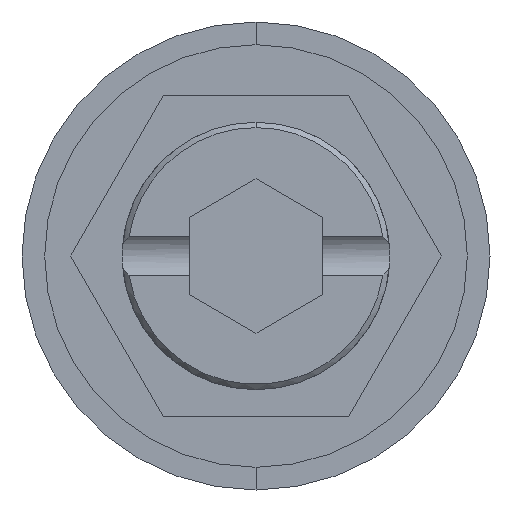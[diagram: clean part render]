
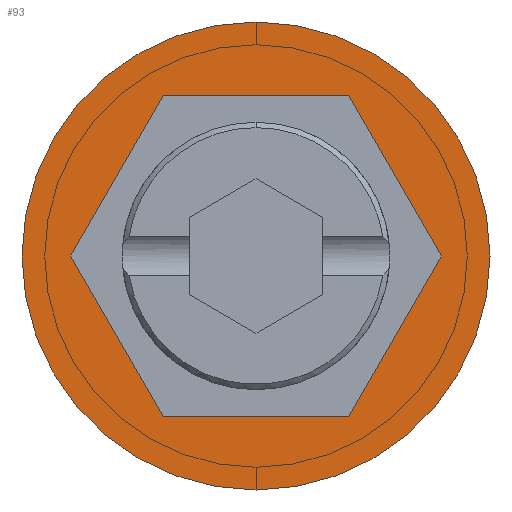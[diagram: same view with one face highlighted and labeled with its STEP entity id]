
A CAD part, front view. The second image highlights one B-rep face of the part: STEP entity #93.
In plain terms, the highlighted planar face has unit normal (0, -1, 0).
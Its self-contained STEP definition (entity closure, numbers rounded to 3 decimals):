
#19 = VECTOR ( 'NONE', #689, 1000. ) ;
#25 = VECTOR ( 'NONE', #706, 1000. ) ;
#27 = LINE ( 'NONE', #766, #25 ) ;
#41 = LINE ( 'NONE', #668, #19 ) ;
#68 = CARTESIAN_POINT ( 'NONE',  ( 6.928, 0., 0. ) ) ;
#73 = DIRECTION ( 'NONE',  ( -0.5, 0., 0.866 ) ) ;
#93 = ADVANCED_FACE ( 'NONE', ( #588, #594 ), #716, .T. ) ;
#144 = CIRCLE ( 'NONE', #1674, 8.75 ) ;
#169 = CARTESIAN_POINT ( 'NONE',  ( -6.928, 0., 0. ) ) ;
#217 = CARTESIAN_POINT ( 'NONE',  ( 6.928, 0., 0. ) ) ;
#242 = VECTOR ( 'NONE', #1532, 1000. ) ;
#257 = CIRCLE ( 'NONE', #1899, 8.75 ) ;
#260 = LINE ( 'NONE', #1529, #242 ) ;
#304 = DIRECTION ( 'NONE',  ( -1., 0., 0. ) ) ;
#306 = CARTESIAN_POINT ( 'NONE',  ( 3.464, 0., 6. ) ) ;
#465 = DIRECTION ( 'NONE',  ( -0.5, 0., -0.866 ) ) ;
#484 = AXIS2_PLACEMENT_3D ( 'NONE', #603, #734, #736 ) ;
#494 = CARTESIAN_POINT ( 'NONE',  ( -3.464, 0., 6. ) ) ;
#521 = CARTESIAN_POINT ( 'NONE',  ( -3.464, 0., 6. ) ) ;
#588 = FACE_BOUND ( 'NONE', #1856, .T. ) ;
#594 = FACE_OUTER_BOUND ( 'NONE', #613, .T. ) ;
#603 = CARTESIAN_POINT ( 'NONE',  ( 0., 0., 0. ) ) ;
#613 = EDGE_LOOP ( 'NONE', ( #1195, #1189 ) ) ;
#668 = CARTESIAN_POINT ( 'NONE',  ( -6.928, 0., 0. ) ) ;
#689 = DIRECTION ( 'NONE',  ( 0.5, 0., -0.866 ) ) ;
#706 = DIRECTION ( 'NONE',  ( 1., 0., 0. ) ) ;
#716 = PLANE ( 'NONE',  #484 ) ;
#733 = VERTEX_POINT ( 'NONE', #2245 ) ;
#734 = DIRECTION ( 'NONE',  ( 0., -1., 0. ) ) ;
#736 = DIRECTION ( 'NONE',  ( 0., 0., -1. ) ) ;
#766 = CARTESIAN_POINT ( 'NONE',  ( -3.464, 0., -6. ) ) ;
#808 = EDGE_CURVE ( 'NONE', #982, #1707, #260, .T. ) ;
#809 = VERTEX_POINT ( 'NONE', #1528 ) ;
#825 = VERTEX_POINT ( 'NONE', #1567 ) ;
#891 = EDGE_CURVE ( 'NONE', #825, #733, #257, .T. ) ;
#982 = VERTEX_POINT ( 'NONE', #1771 ) ;
#1068 = EDGE_CURVE ( 'NONE', #733, #825, #144, .T. ) ;
#1189 = ORIENTED_EDGE ( 'NONE', *, *, #891, .T. ) ;
#1195 = ORIENTED_EDGE ( 'NONE', *, *, #1068, .T. ) ;
#1210 = ORIENTED_EDGE ( 'NONE', *, *, #808, .F. ) ;
#1213 = ORIENTED_EDGE ( 'NONE', *, *, #1814, .F. ) ;
#1217 = ORIENTED_EDGE ( 'NONE', *, *, #1688, .F. ) ;
#1218 = ORIENTED_EDGE ( 'NONE', *, *, #1579, .F. ) ;
#1219 = CARTESIAN_POINT ( 'NONE',  ( -3.464, 0., -6. ) ) ;
#1223 = VERTEX_POINT ( 'NONE', #1219 ) ;
#1232 = ORIENTED_EDGE ( 'NONE', *, *, #1458, .F. ) ;
#1234 = ORIENTED_EDGE ( 'NONE', *, *, #1438, .F. ) ;
#1359 = DIRECTION ( 'NONE',  ( 0., 0., -1. ) ) ;
#1364 = DIRECTION ( 'NONE',  ( 0., -1., 0. ) ) ;
#1366 = CARTESIAN_POINT ( 'NONE',  ( 0., 0., 0. ) ) ;
#1438 = EDGE_CURVE ( 'NONE', #1223, #982, #27, .T. ) ;
#1458 = EDGE_CURVE ( 'NONE', #1754, #1223, #41, .T. ) ;
#1528 = CARTESIAN_POINT ( 'NONE',  ( 3.464, 0., 6. ) ) ;
#1529 = CARTESIAN_POINT ( 'NONE',  ( 3.464, 0., -6. ) ) ;
#1532 = DIRECTION ( 'NONE',  ( 0.5, 0., 0.866 ) ) ;
#1561 = VERTEX_POINT ( 'NONE', #521 ) ;
#1567 = CARTESIAN_POINT ( 'NONE',  ( 0., 0., 8.75 ) ) ;
#1579 = EDGE_CURVE ( 'NONE', #1561, #1754, #2236, .T. ) ;
#1674 = AXIS2_PLACEMENT_3D ( 'NONE', #1366, #1364, #1359 ) ;
#1676 = CARTESIAN_POINT ( 'NONE',  ( 0., 0., 0. ) ) ;
#1681 = DIRECTION ( 'NONE',  ( 0., -1., 0. ) ) ;
#1685 = DIRECTION ( 'NONE',  ( 0., 0., -1. ) ) ;
#1688 = EDGE_CURVE ( 'NONE', #809, #1561, #2113, .T. ) ;
#1707 = VERTEX_POINT ( 'NONE', #217 ) ;
#1754 = VERTEX_POINT ( 'NONE', #169 ) ;
#1771 = CARTESIAN_POINT ( 'NONE',  ( 3.464, 0., -6. ) ) ;
#1814 = EDGE_CURVE ( 'NONE', #1707, #809, #1973, .T. ) ;
#1856 = EDGE_LOOP ( 'NONE', ( #1234, #1232, #1218, #1217, #1213, #1210 ) ) ;
#1899 = AXIS2_PLACEMENT_3D ( 'NONE', #1676, #1681, #1685 ) ;
#1931 = VECTOR ( 'NONE', #73, 1000. ) ;
#1973 = LINE ( 'NONE', #68, #1931 ) ;
#2099 = VECTOR ( 'NONE', #304, 1000. ) ;
#2113 = LINE ( 'NONE', #306, #2099 ) ;
#2214 = VECTOR ( 'NONE', #465, 1000. ) ;
#2236 = LINE ( 'NONE', #494, #2214 ) ;
#2245 = CARTESIAN_POINT ( 'NONE',  ( 0., 0., -8.75 ) ) ;
